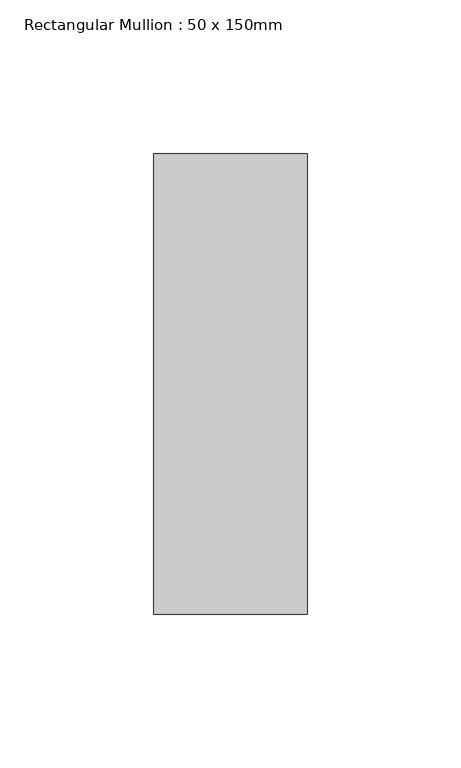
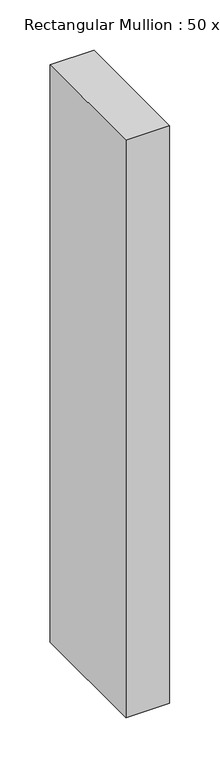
"""IFC4 building model written with IfcOpenShell, lengths in millimetres: member geometry, Rectangular Mullion : 50 x 150mm."""

from ifc_helpers import new_model, si_unit, frame, origin, place, context, project, spatial, polyline, outline, extrude, source, transform, mapped, element, save


def rectangular_mullion_50_x_150mm_5ad7e812(model_context):
    return source(origin(), model_context, "Body", "SweptSolid", [
        extrude(outline(polyline([(0.0, 75.0), (0.0, -75.0), (-50.0, -75.0), (-50.0, 75.0), (0.0, 75.0)])), frame((0.0, 0.0, -698.6372167), z_axis=(0.0, 0.0, 1.0), x_axis=(1.0, 0.0, 0.0)), (0.0, 0.0, 1.0), 698.6372167),
    ])


if __name__ == "__main__":
    model = new_model("IFC4")
    model_context = context("Model", 3, world=origin())
    ifc_project = project(units=[si_unit("LENGTHUNIT", "METRE", prefix="MILLI")], contexts=[model_context])
    site = spatial("IfcSite", under=ifc_project)
    building = spatial("IfcBuilding", under=site)
    placement = place(None, origin())
    rectangular_mullion_50_x_150mm_shape = rectangular_mullion_50_x_150mm_5ad7e812(model_context)
    element("IfcMember", 1, ObjectType="Rectangular Mullion : 50 x 150mm", at=placement, inside=building, context=model_context, shape_type="MappedRepresentation", body=[
        mapped(rectangular_mullion_50_x_150mm_shape, transform((0.0, 0.0, 0.0), x_axis=(1.0, 0.0, 0.0), y_axis=(0.0, 1.0, 0.0), z_axis=(0.0, 0.0, 1.0))),
    ])
    save(model, "model.ifc")
